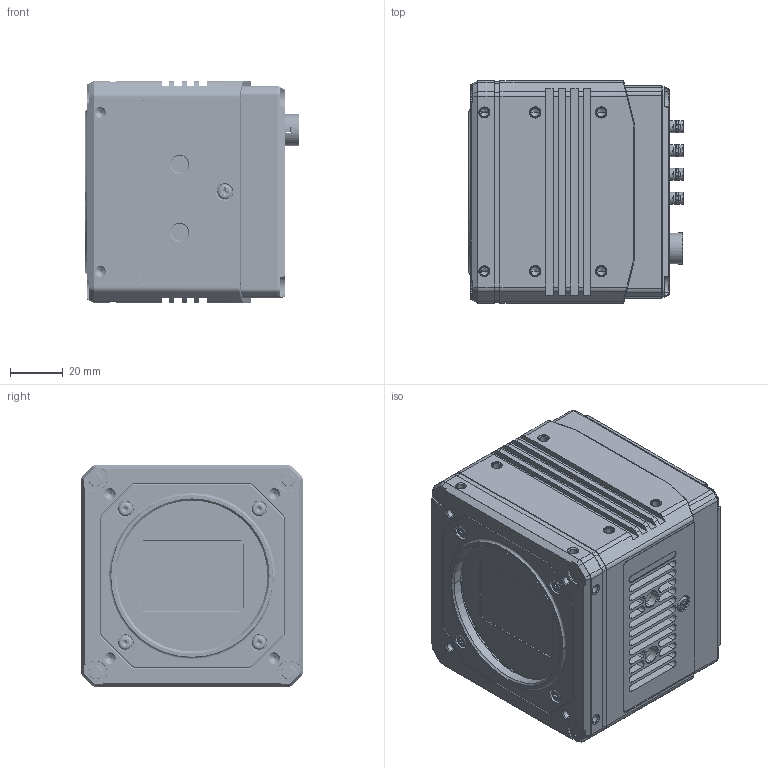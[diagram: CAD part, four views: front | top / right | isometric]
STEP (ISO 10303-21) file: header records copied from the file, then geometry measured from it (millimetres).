
FILE_DESCRIPTION((''),'2;1');
FILE_NAME('MV-CH210-90YC-M58S-NF','2024-05-23T07:50:57',('wangyijun6'),(''),'CREO PARAMETRIC BY PTC INC, 2017260','CREO PARAMETRIC BY PTC INC, 2017260','');
FILE_SCHEMA(('CONFIG_CONTROL_DESIGN'));
Products named in the file (1): MV-CH210-90YC-M58S-NF
Bounding box: 81.16 x 84 x 84 mm (x, y, z)
Volume: 440606.5 mm3; surface area: 108485.5 mm2
Topology: 2 solids, 108 shells, 3495 faces, 9633 edges, 6247 vertices
Faces by surface type: plane 1321, cylinder 1302, cone 620, torus 110, bspline 84, extrusion 50, sphere 8
Entity records: 128974 total; most frequent: CARTESIAN_POINT 39397, DIRECTION 19006, ORIENTED_EDGE 18671, EDGE_CURVE 9527, AXIS2_PLACEMENT_3D 7214, VERTEX_POINT 6247, VECTOR 4578, LINE 4528
